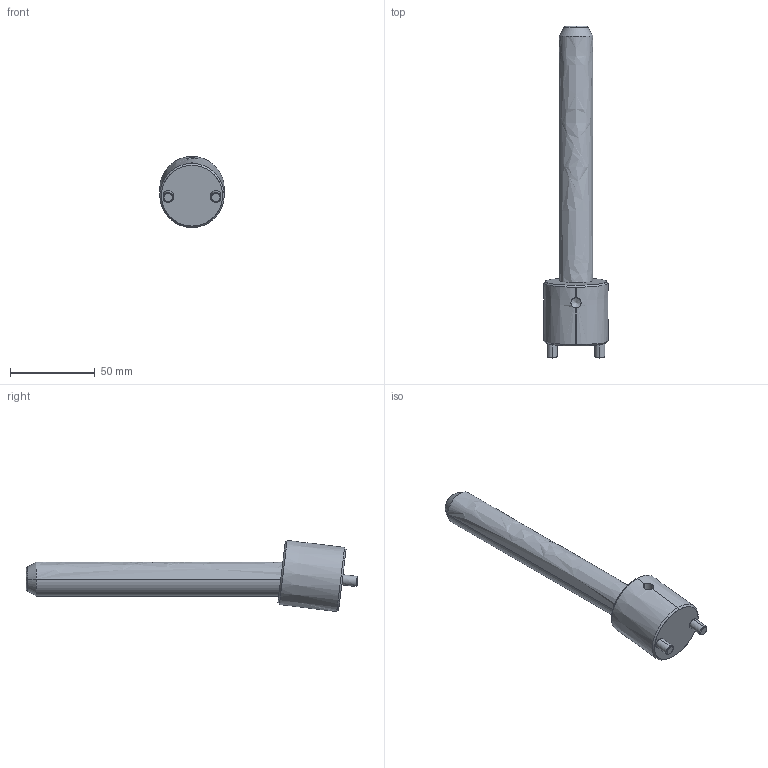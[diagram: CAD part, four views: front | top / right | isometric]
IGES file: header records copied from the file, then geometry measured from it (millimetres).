
Start section: SolidWorks IGES file using analytic representation for surfaces
Global section: file name: D:\Current\W1\Data\CI0720150\CI0720150.IGS; native system: SolidWorks 2017; preprocessor: SolidWorks 2017; author: Ravi Kalvai; date: 231207.180451; units: millimetre
Bounding box: 38 x 195.46 x 41.86 mm (x, y, z)
Surface area: 20608.2 mm2 (no closed solid volume)
Topology: 0 solids, 0 shells, 37 faces, 722 edges, 720 vertices
Faces by surface type: revolution 28, bspline 9
